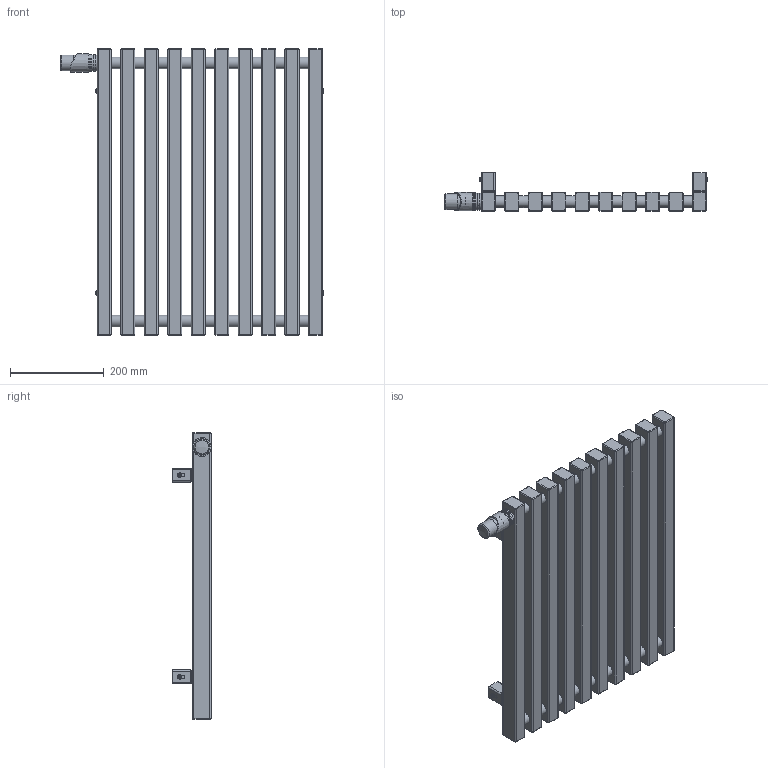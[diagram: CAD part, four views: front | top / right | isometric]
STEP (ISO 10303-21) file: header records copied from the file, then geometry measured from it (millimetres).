
FILE_DESCRIPTION((''),'2;1');
FILE_NAME('Z:\R\G\P\RGP029 - Grzejnik Triga ( ZET)\Work\Inventor\Triga v1.1\Marketing\AutoCad 3D\G-TR-XX-MK-XX-61-48-VL.stp','2012-07-26T13:30:40',('DawPi'),(''),'Autodesk Inventor 2012','Autodesk Inventor 2012','');
FILE_SCHEMA(('AUTOMOTIVE_DESIGN { 1 0 10303 214 1 1 1 1 }'));
Length unit declared in the file: millimetre
Products named in the file (4): G-TR-XX-MK-XX-61-48-VL; MMT42; A40300A
Assembly tree (6 placements, depth 2):
  G-TR-XX-MK-XX-61-48-VL
    G-TR-XX-MK-XX-61-48-VL
    MMT42  x4
    A40300A
Bounding box: 562.26 x 82 x 610 mm (x, y, z)
Volume: 7664446.7 mm3; surface area: 908995.6 mm2
Topology: 6 solids, 7 shells, 545 faces, 1206 edges, 735 vertices
Faces by surface type: cylinder 217, plane 207, bspline 81, cone 25, torus 14, sphere 1
Full cylindrical faces by diameter (mm): 4 x1, 4.134 x4, 4.509 x4, 5 x1, 10 x5, 11.445 x1, 12 x4, 18.631 x2, 25 x18, 26.211 x1, 28 x1, 30 x1, 31 x1, 33.8 x1, 34 x2, 35 x3, 36 x4, 38 x3
Entity records: 17132 total; most frequent: CARTESIAN_POINT 8266, DIRECTION 1950, ORIENTED_EDGE 1620, EDGE_CURVE 810, AXIS2_PLACEMENT_3D 805, EDGE_LOOP 544, VERTEX_POINT 520, CIRCLE 464
